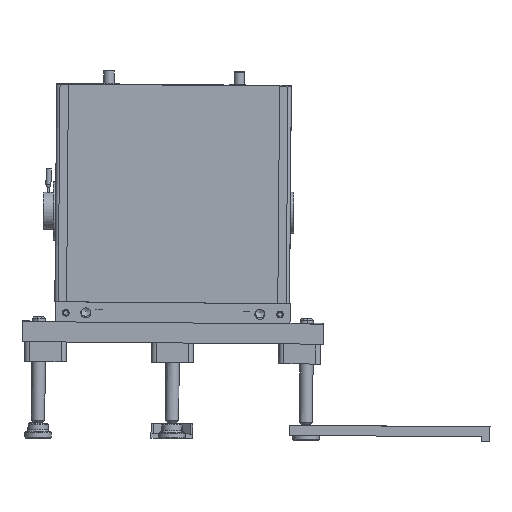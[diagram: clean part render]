
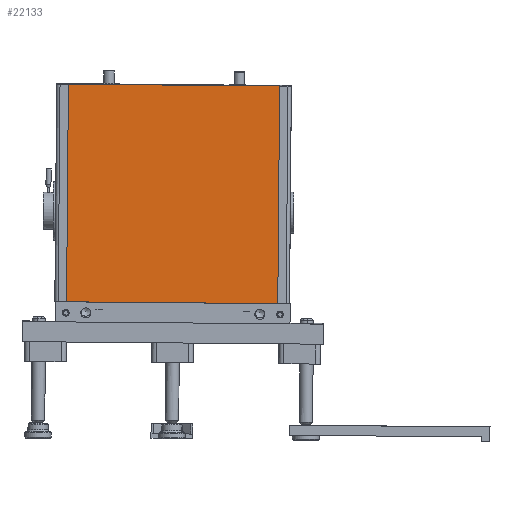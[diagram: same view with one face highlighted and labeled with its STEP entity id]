
A CAD part, front view. The second image highlights one B-rep face of the part: STEP entity #22133.
In plain terms, the highlighted planar face has unit normal (0, -1, -0.001).
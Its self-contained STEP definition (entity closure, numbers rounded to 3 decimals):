
#5641=CARTESIAN_POINT('',(14.359,-103.163,31.811));
#5642=VERTEX_POINT('',#5641);
#5643=CARTESIAN_POINT('',(15.468,-103.324,161.806));
#5644=VERTEX_POINT('',#5643);
#5645=CARTESIAN_POINT('',(14.359,-103.163,31.811));
#5646=DIRECTION('',(0.009,-0.001,1.));
#5647=VECTOR('',#5646,130.0);
#5648=LINE('',#5645,#5647);
#5649=EDGE_CURVE('',#5642,#5644,#5648,.T.);
#21673=CARTESIAN_POINT('',(-110.727,-103.314,162.884));
#21674=VERTEX_POINT('',#21673);
#21681=CARTESIAN_POINT('',(-110.727,-103.314,162.884));
#21682=DIRECTION('',(1.,0.,-0.009));
#21683=VECTOR('',#21682,126.2);
#21684=LINE('',#21681,#21683);
#21685=EDGE_CURVE('',#21674,#5644,#21684,.T.);
#22099=CARTESIAN_POINT('',(-111.837,-103.153,32.888));
#22100=VERTEX_POINT('',#22099);
#22101=CARTESIAN_POINT('',(-111.837,-103.153,32.888));
#22102=DIRECTION('',(1.,0.,-0.009));
#22103=VECTOR('',#22102,126.2);
#22104=LINE('',#22101,#22103);
#22105=EDGE_CURVE('',#22100,#5642,#22104,.T.);
#22117=CARTESIAN_POINT('',(-111.837,-103.153,32.888));
#22118=DIRECTION('',(0.,-1.,-0.001));
#22119=DIRECTION('',(1.,0.,-0.009));
#22120=AXIS2_PLACEMENT_3D('',#22117,#22118,#22119);
#22121=PLANE('',#22120);
#22122=ORIENTED_EDGE('',*,*,#5649,.T.);
#22123=ORIENTED_EDGE('',*,*,#21685,.F.);
#22124=CARTESIAN_POINT('',(-111.837,-103.153,32.888));
#22125=DIRECTION('',(0.009,-0.001,1.));
#22126=VECTOR('',#22125,130.);
#22127=LINE('',#22124,#22126);
#22128=EDGE_CURVE('',#22100,#21674,#22127,.T.);
#22129=ORIENTED_EDGE('',*,*,#22128,.F.);
#22130=ORIENTED_EDGE('',*,*,#22105,.T.);
#22131=EDGE_LOOP('',(#22122,#22123,#22129,#22130));
#22132=FACE_OUTER_BOUND('',#22131,.T.);
#22133=ADVANCED_FACE('',(#22132),#22121,.T.);
